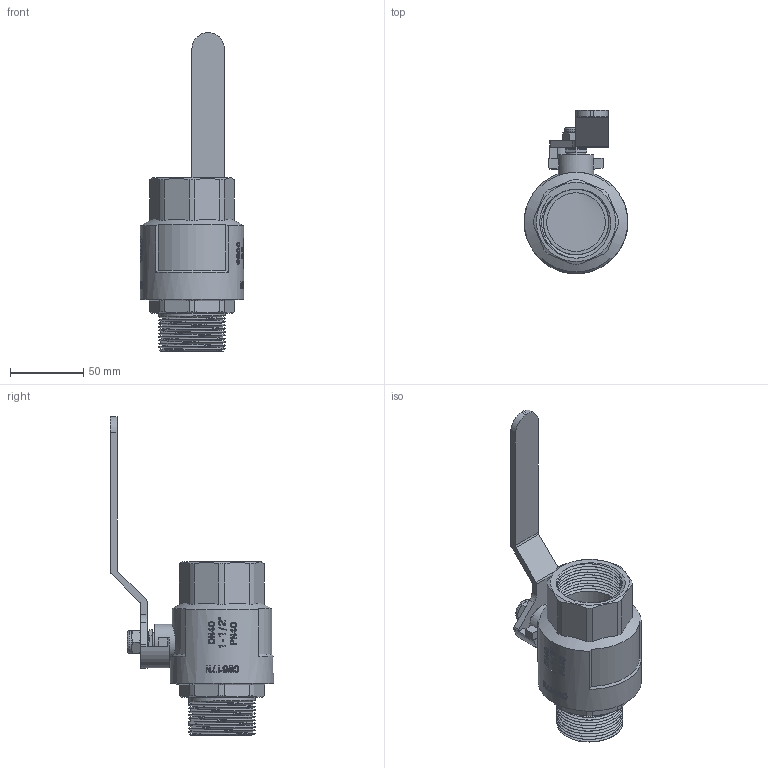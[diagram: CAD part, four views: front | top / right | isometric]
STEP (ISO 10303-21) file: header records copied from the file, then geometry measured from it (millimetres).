
FILE_DESCRIPTION(/* description */ (''),/* implementation_level */ '2;1');
FILE_NAME(/* name */ 'F:\Артём\00000\Работа удаленка\0\B\VT.315.N.08.stp',/* time_stamp */ '2021-02-03T15:57:22+03:00',/* author */ ('almis'),/* organization */ (''),/* preprocessor_version */ 'ST-DEVELOPER v18',/* originating_system */ 'Autodesk Inventor 2020',/* authorisation */ '');
FILE_SCHEMA (('AUTOMOTIVE_DESIGN { 1 0 10303 214 3 1 1 }'));
Length unit declared in the file: millimetre
Products named in the file (1): VT.314_ВВ_1-1%2
Bounding box: 70.7 x 111.39 x 217.63 mm (x, y, z)
Volume: 214801.5 mm3; surface area: 65532.3 mm2
Topology: 1 solids, 1 shells, 598 faces, 1586 edges, 1051 vertices
Faces by surface type: plane 241, bspline 195, cylinder 142, cone 18, torus 2
Full cylindrical faces by diameter (mm): 9.493 x1, 13.221 x1, 15.324 x1, 24.5 x1, 40 x1, 40.874 x13, 44.8 x11, 45.474 x11, 49.4 x12, 70.5 x1
Entity records: 28650 total; most frequent: CARTESIAN_POINT 14850, ORIENTED_EDGE 3172, DIRECTION 2138, EDGE_CURVE 1586, VERTEX_POINT 1051, LINE 738, VECTOR 738, AXIS2_PLACEMENT_3D 700
